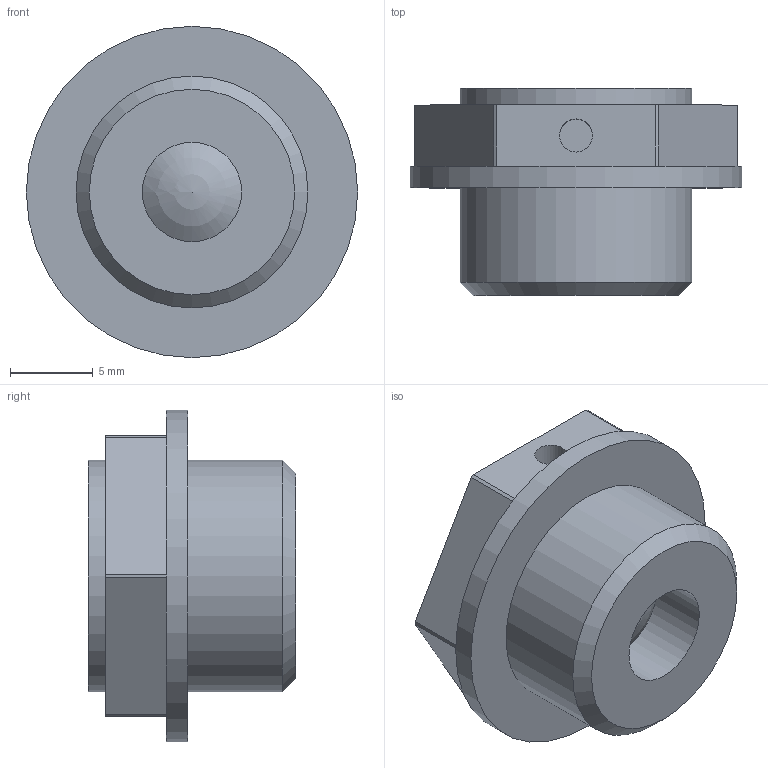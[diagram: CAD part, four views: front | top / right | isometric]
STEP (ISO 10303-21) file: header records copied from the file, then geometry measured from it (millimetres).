
FILE_DESCRIPTION( ( 'STEP AP203' ), '1' );
FILE_NAME( 'C:/Temp/Ganter_Step_05_03_2020/data/3_5/gn883/Breather valve GN 883-M14x1,5-160-A-MS.stp', '2020-03-12T13:42:45', ( 'License CC BY-ND 4.0' ), ( 'CADENAS' ), ' ', 'PARTsolutions', ' ' );
FILE_SCHEMA( ( 'CONFIG_CONTROL_DESIGN' ) );
Length unit declared in the file: millimetre
Products named in the file (1): _Breather valve GN 883-M14x1,5-160-A-MS
Bounding box: 20 x 12.5 x 20 mm (x, y, z)
Volume: 2360 mm3; surface area: 1360.9 mm2
Topology: 1 solids, 1 shells, 25 faces, 57 edges, 38 vertices
Faces by surface type: plane 12, cylinder 11, sphere 1, cone 1
Full cylindrical faces by diameter (mm): 2 x1, 6 x1, 14 x2, 20 x1
Entity records: 700 total; most frequent: DIRECTION 122, CARTESIAN_POINT 109, ORIENTED_EDGE 94, AXIS2_PLACEMENT_3D 49, EDGE_CURVE 47, EDGE_LOOP 36, VERTEX_POINT 36, FACE_OUTER_BOUND 30
